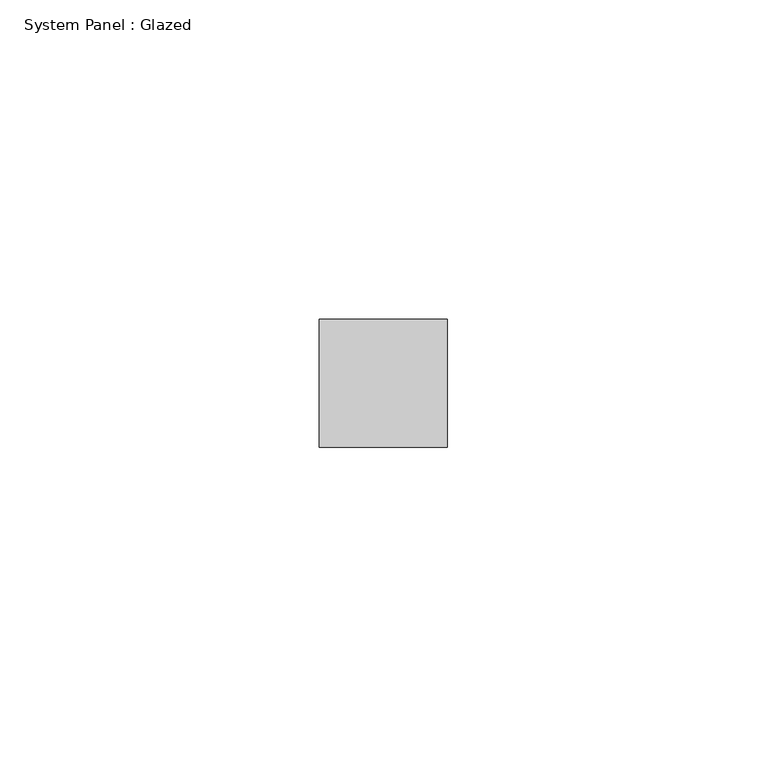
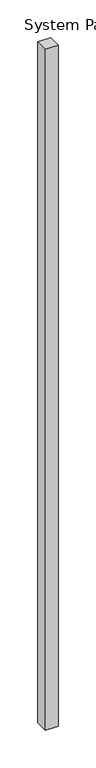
"""IFC4 building model written with IfcOpenShell, lengths in millimetres: plate geometry, System Panel : Glazed."""

from ifc_helpers import new_model, si_unit, origin, origin_with_axes, place, context, project, spatial, polyline, outline, extrude, source, transform, mapped, element, save


def system_panel_glazed_46e9ba5c(model_context):
    return source(origin(), model_context, "Body", "SweptSolid", [
        extrude(outline(polyline([(10.0, 0.0), (-10.0, 0.0), (-10.0, 20.0), (10.0, 20.0), (10.0, 0.0)])), origin_with_axes(), (0.0, 0.0, 1.0), 1105.0),
    ])


if __name__ == "__main__":
    model = new_model("IFC4")
    model_context = context("Model", 3, world=origin())
    ifc_project = project(units=[si_unit("LENGTHUNIT", "METRE", prefix="MILLI")], contexts=[model_context])
    site = spatial("IfcSite", under=ifc_project)
    building = spatial("IfcBuilding", under=site)
    placement = place(None, origin())
    system_panel_glazed_shape = system_panel_glazed_46e9ba5c(model_context)
    element("IfcPlate", 1, ObjectType="System Panel : Glazed", at=placement, inside=building, context=model_context, shape_type="MappedRepresentation", body=[
        mapped(system_panel_glazed_shape, transform((0.0, 0.0, 0.0), x_axis=(1.0, 0.0, 0.0), y_axis=(0.0, 1.0, 0.0), z_axis=(0.0, 0.0, 1.0))),
    ])
    save(model, "model.ifc")
